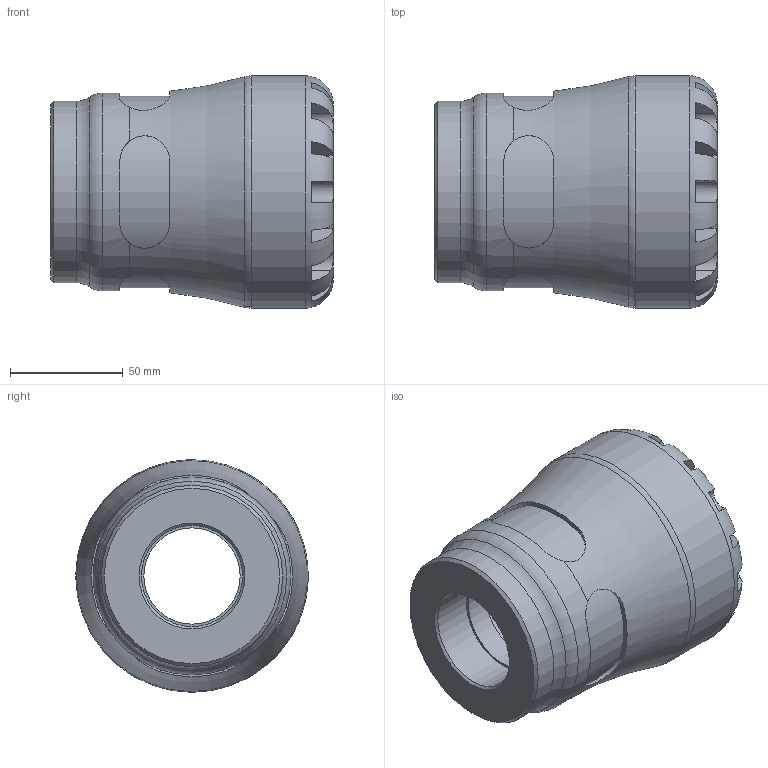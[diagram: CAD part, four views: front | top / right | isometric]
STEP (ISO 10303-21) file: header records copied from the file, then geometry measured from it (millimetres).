
FILE_DESCRIPTION(/* description */ ('PLASSON FEMALE ADAPTOR 63x1 1/2" SERIES 1'),/* implementation_level */ '2;1');
FILE_NAME(/* name */ 'C:\Dropbox\KIMPROJECTS-Inventor\99-16-3568-Processing\S1\27.01.19\1003G\1003G0063015_1903G0063015.ipt.stp',/* time_stamp */ '2019-01-27T09:13:21+02:00',/* author */ ('KIM'),/* organization */ (''),/* preprocessor_version */ 'ST-DEVELOPER v15.6',/* originating_system */ 'Autodesk Inventor 2015',/* authorisation */ '');
FILE_SCHEMA (('AUTOMOTIVE_DESIGN { 1 0 10303 214 3 1 1 }'));
Length unit declared in the file: millimetre
Products named in the file (1): 1003G0063015_1903G0063015
Bounding box: 125 x 103 x 103 mm (x, y, z)
Volume: 500172.9 mm3; surface area: 71945.2 mm2
Topology: 1 solids, 1 shells, 104 faces, 265 edges, 166 vertices
Faces by surface type: plane 61, cylinder 35, torus 5, cone 3
Full cylindrical faces by diameter (mm): 42.603 x1, 44.845 x1, 52.5 x1, 63 x1, 80.34 x1, 87.55 x1, 103 x1
Entity records: 3888 total; most frequent: CARTESIAN_POINT 1501, ORIENTED_EDGE 492, DIRECTION 478, EDGE_CURVE 246, AXIS2_PLACEMENT_3D 199, VERTEX_POINT 162, EDGE_LOOP 124, FACE_OUTER_BOUND 104
